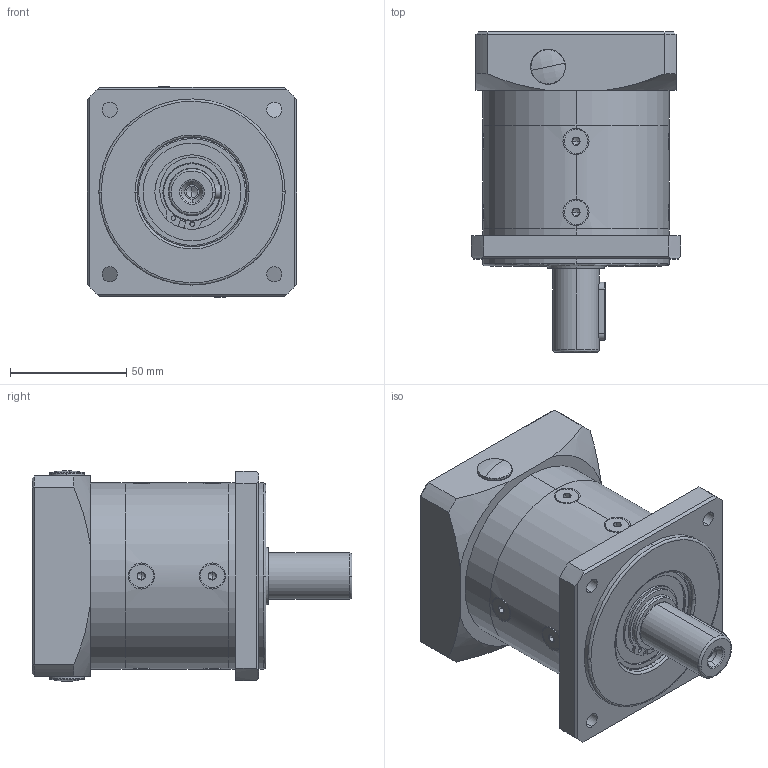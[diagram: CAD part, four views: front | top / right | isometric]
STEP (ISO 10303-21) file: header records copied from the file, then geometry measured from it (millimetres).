
FILE_DESCRIPTION (( 'STEP AP214' ), '1' );
FILE_NAME ('GSFL-080-0XX-N034H-XX Single Stage.STEP', '2025-06-23T17:35:12', ( '' ), ( '' ), 'SwSTEP 2.0', 'SolidWorks 2020', '' );
FILE_SCHEMA (( 'AUTOMOTIVE_DESIGN' ));
Length unit declared in the file: millimetre
Products named in the file (1): GSFL-080-0XX-N034H-XX Single Stage
Bounding box: 90 x 137.5 x 90.39 mm (x, y, z)
Volume: 401521.2 mm3; surface area: 147977.1 mm2
Topology: 36 solids, 36 shells, 1114 faces, 2759 edges, 1685 vertices
Faces by surface type: cylinder 366, plane 292, bspline 268, cone 188
Entity records: 47879 total; most frequent: CARTESIAN_POINT 20055, ORIENTED_EDGE 5270, DIRECTION 4920, EDGE_CURVE 2635, AXIS2_PLACEMENT_3D 2083, VERTEX_POINT 1685, EDGE_LOOP 1300, CIRCLE 1236
